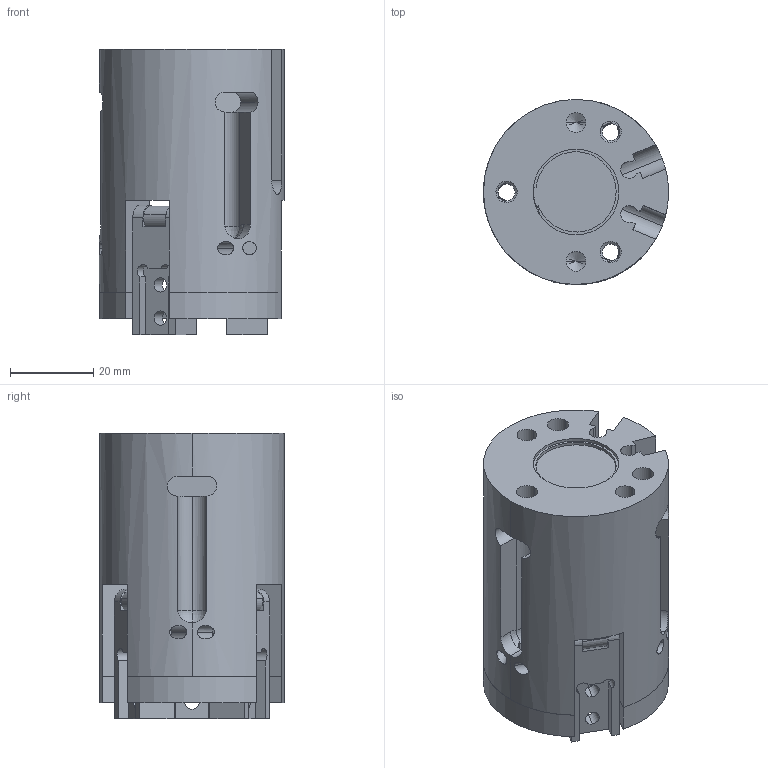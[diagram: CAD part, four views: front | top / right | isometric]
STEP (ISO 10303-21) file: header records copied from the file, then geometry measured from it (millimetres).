
FILE_DESCRIPTION (( 'STEP AP203' ), '1' );
FILE_NAME ('AGA-23 CLOSED in MM.STEP', '2014-11-04T22:15:13', ( 'setup' ), ( '' ), 'SwSTEP 2.0', 'SolidWorks 2013', '' );
FILE_SCHEMA (( 'CONFIG_CONTROL_DESIGN' ));
Length unit declared in the file: millimetre
Products named in the file (12): 2302; 2003; AGA-23 LONG PIN; AGA-23 CLOSED in MM; 2307; AGA-2007; 2306; snap ring; AGA-23 SHORT PIN; 2005; 2301; 2004
Assembly tree (22 placements, depth 2):
  AGA-23 CLOSED in MM
    2301
    2302
    2005
    2307
    AGA-2007
    2306
    snap ring
    AGA-23 SHORT PIN  x6
    2004  x3
    2003  x3
    AGA-23 LONG PIN  x3
Bounding box: 44.45 x 44.45 x 68.58 mm (x, y, z)
Volume: 68641.5 mm3; surface area: 36399 mm2
Topology: 22 solids, 22 shells, 464 faces, 1182 edges, 767 vertices
Faces by surface type: cylinder 249, plane 185, cone 18, torus 6, bspline 6
Entity records: 13476 total; most frequent: CARTESIAN_POINT 3432, DIRECTION 1864, ORIENTED_EDGE 1700, EDGE_CURVE 850, AXIS2_PLACEMENT_3D 729, VERTEX_POINT 555, EDGE_LOOP 419, VECTOR 406
